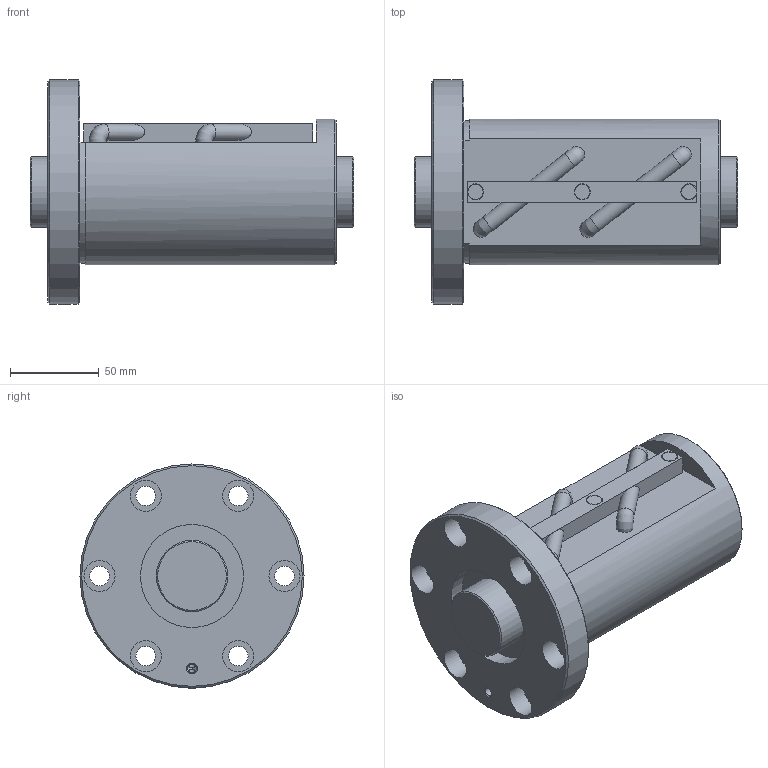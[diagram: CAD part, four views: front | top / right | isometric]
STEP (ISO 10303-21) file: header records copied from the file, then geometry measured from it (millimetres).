
FILE_DESCRIPTION(/* description */ ('STEP AP203'),/* implementation_level */ '2;1');
FILE_NAME(/* name */ 'BIF4020V-5RRG0+182LC0_000',/* time_stamp */ '2024-07-15T08:24:46+02:00',/* author */ ('License CC BY-ND 4.0'),/* organization */ ('CADENAS'),/* preprocessor_version */ 'ST-DEVELOPER v19.3',/* originating_system */ 'PARTsolutions',/* authorisation */ ' ');
FILE_SCHEMA (('CONFIG_CONTROL_DESIGN'));
Length unit declared in the file: millimetre
Products named in the file (3): BIF4020V-5RRG0+182LC0_000; BIF4020V-5RR000 Shaft; BIF4020V-5RR Nut
Assembly tree (2 placements, depth 2):
  BIF4020V-5RRG0+182LC0_000
    BIF4020V-5RR000 Shaft
    BIF4020V-5RR Nut
Bounding box: 182 x 126 x 126 mm (x, y, z)
Volume: 916761.8 mm3; surface area: 123909.6 mm2
Topology: 2 solids, 2 shells, 89 faces, 207 edges, 132 vertices
Faces by surface type: plane 41, cylinder 37, cone 7, torus 4
Full cylindrical faces by diameter (mm): 4 x3, 4.917 x1, 8.5 x3, 9.1 x1, 9.3 x4, 11 x6, 17.5 x6, 40 x2, 58 x2, 82 x1, 126 x1
Entity records: 2465 total; most frequent: CARTESIAN_POINT 485, DIRECTION 430, ORIENTED_EDGE 308, AXIS2_PLACEMENT_3D 194, FACE_BOUND 163, EDGE_LOOP 162, EDGE_CURVE 154, VERTEX_POINT 119
